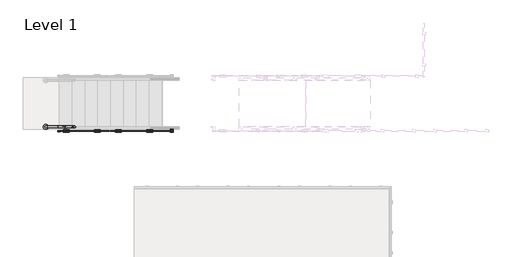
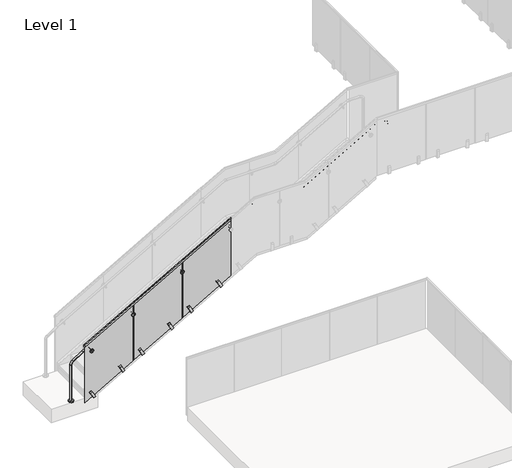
# One storey, part 8 of 17: 1 railing.
"""IFC4 building model written with IfcOpenShell, lengths in millimetres."""

from ifc_helpers import new_model, si_unit, point, frame, frame_2d, origin, origin_with_axes, place, context, project, spatial, polyline, circle_curve, ellipse_curve, trimmed, segment, composite_curve, outline, extrude, faceted_brep, element, save
from ifc_brep_helpers import plane_surface, cylinder_surface, revolved_surface, advanced_brep

model = new_model("IFC4")

# Units and contexts
model_context = context("Model", 3, world=origin())
ifc_project = project(units=[si_unit("LENGTHUNIT", "METRE", prefix="MILLI")], contexts=[model_context])

# Site, building, storey
site = spatial("IfcSite", under=ifc_project)
building = spatial("IfcBuilding", under=site)
storey = spatial("IfcBuildingStorey", under=building, Name="Level 1", Elevation=0.0)

# Railing
placement = place(None, origin())
element("IfcRailing", 1, ObjectType="VIVA-VISIO-Glass-Steel Fascia Mount-Stair_Lower", at=placement, inside=storey, context=model_context, shape_type="SolidModel", body=[
    extrude(outline(composite_curve([segment(trimmed(circle_curve(frame_2d((30754.4362561, -12583.4117549)), 50.8), [point((30754.4362561, -12634.2117549))], [point((30754.4362561, -12532.6117549))], False, "CARTESIAN"), True, "CONTINUOUS"), segment(trimmed(circle_curve(frame_2d((30754.4362561, -12583.4117549)), 50.8), [point((30754.4362561, -12532.6117549))], [point((30754.4362561, -12634.2117549))], False, "CARTESIAN"), True, "CONTINUOUS")], self_intersect=False)), frame((0.0, 0.0, 3048.0), z_axis=(0.0, 0.0, 1.0), x_axis=(1.0, 0.0, 0.0)), (0.0, 0.0, 1.0), 19.05),
    extrude(outline(composite_curve([segment(trimmed(circle_curve(frame_2d((24036.1362561, -12583.4117549)), 50.8), [point((24036.1362561, -12532.6117549))], [point((24036.1362561, -12634.2117549))], False, "CARTESIAN"), True, "CONTINUOUS"), segment(trimmed(circle_curve(frame_2d((24036.1362561, -12583.4117549)), 50.8), [point((24036.1362561, -12634.2117549))], [point((24036.1362561, -12532.6117549))], False, "CARTESIAN"), True, "CONTINUOUS")], self_intersect=False)), origin_with_axes(), (0.0, 0.0, 1.0), 19.05),
    advanced_brep(
    [(24036.1362561, -12602.4617549, 19.05), (24036.1362561, -12564.3617549, 19.05), (24036.1362561, -12602.4617549, 815.8777111), (24036.1362561, -12564.3617549, 815.8777111), (24072.8957549, -12564.3617549, 884.5634629), (24072.8957549, -12602.4617549, 884.5634629), (24278.7417076, -12602.4617549, 1021.794098), (24278.7417076, -12564.3617549, 1021.794098), (24283.5759394, -12564.3617549, 1024.7818176), (24283.5759394, -12602.4617549, 1024.7818176), (27379.3377028, -12602.4617549, 2793.7885396), (27379.3377028, -12564.3617549, 2793.7885396), (27813.1113335, -12602.4617549, 3041.6591857), (27813.1113335, -12564.3617549, 3041.6591857), (27854.0676029, -12564.3617549, 3052.5357143), (27854.0676029, -12602.4617549, 3052.5357143), (28866.9049093, -12602.4617549, 3052.5357143), (28866.9049093, -12564.3617549, 3052.5357143), (28926.7640722, -12564.3617549, 3068.4321792), (28926.7640722, -12602.4617549, 3068.4321792), (30403.9113335, -12602.4617549, 3912.5163285), (30403.9113335, -12564.3617549, 3912.5163285), (30444.8676029, -12564.3617549, 3923.3928571), (30444.8676029, -12602.4617549, 3923.3928571), (30671.8862561, -12602.4617549, 3923.3928571), (30671.8862561, -12564.3617549, 3923.3928571), (30754.4362561, -12564.3617549, 3840.8428571), (30754.4362561, -12602.4617549, 3840.8428571), (30754.4362561, -12602.4617549, 3067.05), (30754.4362561, -12564.3617549, 3067.05)],
    [
        (0, 1, circle_curve(frame((24036.1362561, -12583.4117549, 19.05), z_axis=(0.0, 0.0, -1.0), x_axis=(0.0, 1.0, 0.0)), 19.05)),
        (1, 0, circle_curve(frame((24036.1362561, -12583.4117549, 19.05), z_axis=(0.0, 0.0, -1.0), x_axis=(0.0, 1.0, 0.0)), 19.05)),
        (0, 2),
        (2, 3, circle_curve(frame((24036.1362561, -12583.4117549, 815.8777111), z_axis=(0.0, 0.0, -1.0), x_axis=(0.0, 1.0, 0.0)), 19.05)),
        (3, 1),
        (3, 2, circle_curve(frame((24036.1362561, -12583.4117549, 815.8777111), z_axis=(0.0, 0.0, -1.0), x_axis=(0.0, 1.0, 0.0)), 19.05)),
        (4, 3, circle_curve(frame((24118.6862561, -12564.3617549, 815.8777111), z_axis=(0.0, -1.0, 0.0), x_axis=(-0.9999999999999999, 0.0, 0.0)), 82.55)),
        (2, 5, circle_curve(frame((24118.6862561, -12602.4617549, 815.8777111), z_axis=(0.0, 1.0, 0.0), x_axis=(-0.9999999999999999, 0.0, 0.0)), 82.55)),
        (5, 4, circle_curve(frame((24072.8957549, -12583.4117549, 884.5634629), z_axis=(-0.832050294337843, 0.0, -0.5547001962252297), x_axis=(0.0, 0.9999999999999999, 0.0)), 19.05)),
        (4, 5, circle_curve(frame((24072.8957549, -12583.4117549, 884.5634629), z_axis=(-0.8320502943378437, 0.0, -0.5547001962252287), x_axis=(0.0, 0.9999999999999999, 0.0)), 19.05)),
        (5, 6),
        (6, 7, circle_curve(frame((24278.7417076, -12583.4117549, 1021.794098), z_axis=(-0.8320502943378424, 0.0, -0.5547001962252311), x_axis=(0.0, 1.0, 0.0)), 19.05)),
        (7, 4),
        (7, 6, circle_curve(frame((24278.7417076, -12583.4117549, 1021.794098), z_axis=(-0.8320502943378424, 0.0, -0.5547001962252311), x_axis=(0.0, 1.0, 0.0)), 19.05)),
        (8, 9, circle_curve(frame((24283.5759394, -12583.4117549, 1024.7818176), z_axis=(0.8682431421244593, 0.0, 0.4961389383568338), x_axis=(0.0, 1.0, 0.0)), 19.05)),
        (9, 10),
        (10, 11, circle_curve(frame((27379.3377028, -12583.4117549, 2793.7885396), z_axis=(-0.8682431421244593, 0.0, -0.4961389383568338), x_axis=(0.0, 1.0, 0.0)), 19.05)),
        (11, 8),
        (9, 8, circle_curve(frame((24283.5759394, -12583.4117549, 1024.7818176), z_axis=(0.8682431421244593, 0.0, 0.4961389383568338), x_axis=(0.0, 1.0, 0.0)), 19.05)),
        (11, 10, circle_curve(frame((27379.3377028, -12583.4117549, 2793.7885396), z_axis=(-0.8682431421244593, 0.0, -0.4961389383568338), x_axis=(0.0, 1.0, 0.0)), 19.05)),
        (8, 7, circle_curve(frame((24324.5322088, -12564.3617549, 953.1083462), z_axis=(0.0, -1.0, 0.0), x_axis=(-0.5547001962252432, 0.0, 0.8320502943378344)), 82.55)),
        (6, 9, circle_curve(frame((24324.5322088, -12602.4617549, 953.1083462), z_axis=(0.0, 1.0, 0.0), x_axis=(-0.5547001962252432, 0.0, 0.8320502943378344)), 82.55)),
        (10, 12),
        (12, 13, circle_curve(frame((27813.1113335, -12583.4117549, 3041.6591857), z_axis=(-0.8682431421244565, 0.0, -0.4961389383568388), x_axis=(0.0, 1.0, 0.0)), 19.05)),
        (13, 11),
        (13, 12, circle_curve(frame((27813.1113335, -12583.4117549, 3041.6591857), z_axis=(-0.8682431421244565, 0.0, -0.4961389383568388), x_axis=(0.0, 1.0, 0.0)), 19.05)),
        (14, 13, circle_curve(frame((27854.0676029, -12564.3617549, 2969.9857143), z_axis=(0.0, -1.0, 0.0), x_axis=(-0.49613893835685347, 0.0, 0.8682431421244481)), 82.55)),
        (12, 15, circle_curve(frame((27854.0676029, -12602.4617549, 2969.9857143), z_axis=(0.0, 1.0, 0.0), x_axis=(-0.49613893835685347, 0.0, 0.8682431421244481)), 82.55)),
        (15, 14, circle_curve(frame((27854.0676029, -12583.4117549, 3052.5357143), z_axis=(-1.0, 0.0, 0.0), x_axis=(0.0, 1.0, 0.0)), 19.05)),
        (14, 15, circle_curve(frame((27854.0676029, -12583.4117549, 3052.5357143), z_axis=(-1.0, 0.0, 0.0), x_axis=(0.0, 1.0, 0.0)), 19.05)),
        (15, 16),
        (16, 17, circle_curve(frame((28866.9049093, -12583.4117549, 3052.5357143), z_axis=(-1.0, 0.0, 0.0), x_axis=(0.0, 1.0, 0.0)), 19.05)),
        (17, 14),
        (17, 16, circle_curve(frame((28866.9049093, -12583.4117549, 3052.5357143), z_axis=(-1.0, 0.0, 0.0), x_axis=(0.0, 1.0, 0.0)), 19.05)),
        (18, 17, circle_curve(frame((28866.9049093, -12564.3617549, 3173.1857143), z_axis=(0.0, 1.0, 0.0), x_axis=(0.0, 0.0, -0.9999999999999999)), 120.65)),
        (16, 19, circle_curve(frame((28866.9049093, -12602.4617549, 3173.1857143), z_axis=(0.0, -1.0, 0.0), x_axis=(0.0, 0.0, -0.9999999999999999)), 120.65)),
        (19, 18, circle_curve(frame((28926.7640722, -12583.4117549, 3068.4321792), z_axis=(-0.8682431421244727, 0.0, -0.4961389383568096), x_axis=(0.0, 0.9999999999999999, 0.0)), 19.05)),
        (18, 19, circle_curve(frame((28926.7640722, -12583.4117549, 3068.4321792), z_axis=(-0.8682431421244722, 0.0, -0.4961389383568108), x_axis=(0.0, 0.9999999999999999, 0.0)), 19.05)),
        (19, 20),
        (20, 21, circle_curve(frame((30403.9113335, -12583.4117549, 3912.5163285), z_axis=(-0.8682431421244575, 0.0, -0.4961389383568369), x_axis=(0.0, 1.0, 0.0)), 19.05)),
        (21, 18),
        (21, 20, circle_curve(frame((30403.9113335, -12583.4117549, 3912.5163285), z_axis=(-0.8682431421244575, 0.0, -0.4961389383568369), x_axis=(0.0, 1.0, 0.0)), 19.05)),
        (22, 21, circle_curve(frame((30444.8676029, -12564.3617549, 3840.8428571), z_axis=(0.0, -1.0, 0.0), x_axis=(-0.49613893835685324, 0.0, 0.868243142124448)), 82.55)),
        (20, 23, circle_curve(frame((30444.8676029, -12602.4617549, 3840.8428571), z_axis=(0.0, 1.0, 0.0), x_axis=(-0.49613893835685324, 0.0, 0.868243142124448)), 82.55)),
        (23, 22, circle_curve(frame((30444.8676029, -12583.4117549, 3923.3928571), z_axis=(-0.9999999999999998, 0.0, 0.0), x_axis=(0.0, 0.9999999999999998, 0.0)), 19.05)),
        (22, 23, circle_curve(frame((30444.8676029, -12583.4117549, 3923.3928571), z_axis=(-0.9999999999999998, 0.0, 0.0), x_axis=(0.0, 0.9999999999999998, 0.0)), 19.05)),
        (23, 24),
        (24, 25, circle_curve(frame((30671.8862561, -12583.4117549, 3923.3928571), z_axis=(-1.0, 0.0, 0.0), x_axis=(0.0, 1.0, 0.0)), 19.05)),
        (25, 22),
        (25, 24, circle_curve(frame((30671.8862561, -12583.4117549, 3923.3928571), z_axis=(-1.0, 0.0, 0.0), x_axis=(0.0, 1.0, 0.0)), 19.05)),
        (26, 25, circle_curve(frame((30671.8862561, -12564.3617549, 3840.8428571), z_axis=(0.0, -1.0, 0.0), x_axis=(0.0, 0.0, 1.0)), 82.55)),
        (24, 27, circle_curve(frame((30671.8862561, -12602.4617549, 3840.8428571), z_axis=(0.0, 1.0, 0.0), x_axis=(0.0, 0.0, 1.0)), 82.55)),
        (27, 26, circle_curve(frame((30754.4362561, -12583.4117549, 3840.8428571), z_axis=(0.0, 0.0, 1.0), x_axis=(0.0, 1.0, 0.0)), 19.05)),
        (26, 27, circle_curve(frame((30754.4362561, -12583.4117549, 3840.8428571), z_axis=(0.0, 0.0, 1.0), x_axis=(0.0, 1.0, 0.0)), 19.05)),
        (28, 29, circle_curve(frame((30754.4362561, -12583.4117549, 3067.05), z_axis=(0.0, 0.0, -1.0), x_axis=(0.0, 1.0, 0.0)), 19.05)),
        (29, 28, circle_curve(frame((30754.4362561, -12583.4117549, 3067.05), z_axis=(0.0, 0.0, -1.0), x_axis=(0.0, 1.0, 0.0)), 19.05)),
        (27, 28),
        (29, 26),
    ],
    [
        plane_surface(frame((24017.0862561, -12621.5117549, 19.05), z_axis=(0.0, 0.0, -1.0), x_axis=(1.0, 0.0, 0.0))),
        cylinder_surface(frame((24036.1362561, -12583.4117549, 19.05), z_axis=(0.0, 0.0, -1.0), x_axis=(0.0, 1.0, 0.0)), 19.05),
        revolved_surface(trimmed(ellipse_curve(frame((24036.1362561, -12583.4117549, 815.8777111), z_axis=(0.0, 0.0, -0.9999999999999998), x_axis=(0.0, 0.9999999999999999, 0.0)), 19.05, 19.05), [point((24036.1362561, -12602.4617549, 815.8777111))], [point((24036.1362561, -12564.3617549, 815.8777111))], True, "CARTESIAN"), (24118.6862561, -12583.4117549, 815.8777111), (0.0, 0.9999999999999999, 0.0)),
        revolved_surface(trimmed(ellipse_curve(frame((24036.1362561, -12583.4117549, 815.8777111), z_axis=(0.0, 0.0, -0.9999999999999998), x_axis=(0.0, 0.9999999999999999, 0.0)), 19.05, 19.05), [point((24036.1362561, -12564.3617549, 815.8777111))], [point((24036.1362561, -12602.4617549, 815.8777111))], True, "CARTESIAN"), (24118.6862561, -12583.4117549, 815.8777111), (0.0, 0.9999999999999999, 0.0)),
        cylinder_surface(frame((24072.8957549, -12583.4117549, 884.5634629), z_axis=(-0.8320502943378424, 0.0, -0.5547001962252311), x_axis=(0.0, 1.0, 0.0)), 19.05),
        cylinder_surface(frame((24283.5759394, -12583.4117549, 1024.7818176), z_axis=(-0.8682431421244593, 0.0, -0.4961389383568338), x_axis=(0.0, 1.0, 0.0)), 19.05),
        revolved_surface(trimmed(ellipse_curve(frame((24278.7417076, -12583.4117549, 1021.794098), z_axis=(-0.8320502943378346, 0.0, -0.5547001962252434), x_axis=(0.0, 1.0000000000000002, 0.0)), 19.05, 19.05), [point((24278.7417076, -12602.4617549, 1021.794098))], [point((24278.7417076, -12564.3617549, 1021.794098))], True, "CARTESIAN"), (24324.5322088, -12583.4117549, 953.1083462), (0.0, 1.0000000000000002, 0.0)),
        revolved_surface(trimmed(ellipse_curve(frame((24278.7417076, -12583.4117549, 1021.794098), z_axis=(-0.8320502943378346, 0.0, -0.5547001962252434), x_axis=(0.0, 1.0000000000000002, 0.0)), 19.05, 19.05), [point((24278.7417076, -12564.3617549, 1021.794098))], [point((24278.7417076, -12602.4617549, 1021.794098))], True, "CARTESIAN"), (24324.5322088, -12583.4117549, 953.1083462), (0.0, 1.0000000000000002, 0.0)),
        cylinder_surface(frame((27379.3377028, -12583.4117549, 2793.7885396), z_axis=(-0.8682431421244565, 0.0, -0.4961389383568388), x_axis=(0.0, 1.0, 0.0)), 19.05),
        revolved_surface(trimmed(ellipse_curve(frame((27813.1113335, -12583.4117549, 3041.6591857), z_axis=(-0.8682431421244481, 0.0, -0.4961389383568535), x_axis=(0.0, 1.0, 0.0)), 19.05, 19.05), [point((27813.1113335, -12602.4617549, 3041.6591857))], [point((27813.1113335, -12564.3617549, 3041.6591857))], True, "CARTESIAN"), (27854.0676029, -12583.4117549, 2969.9857143), (0.0, 1.0, 0.0)),
        revolved_surface(trimmed(ellipse_curve(frame((27813.1113335, -12583.4117549, 3041.6591857), z_axis=(-0.8682431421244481, 0.0, -0.4961389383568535), x_axis=(0.0, 1.0, 0.0)), 19.05, 19.05), [point((27813.1113335, -12564.3617549, 3041.6591857))], [point((27813.1113335, -12602.4617549, 3041.6591857))], True, "CARTESIAN"), (27854.0676029, -12583.4117549, 2969.9857143), (0.0, 1.0, 0.0)),
        cylinder_surface(frame((27854.0676029, -12583.4117549, 3052.5357143), z_axis=(-1.0, 0.0, 0.0), x_axis=(0.0, 1.0, 0.0)), 19.05),
        revolved_surface(trimmed(ellipse_curve(frame((28866.9049093, -12583.4117549, 3052.5357143), z_axis=(-0.9999999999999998, 0.0, 0.0), x_axis=(0.0, 0.9999999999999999, 0.0)), 19.05, 19.05), [point((28866.9049093, -12602.4617549, 3052.5357143))], [point((28866.9049093, -12564.3617549, 3052.5357143))], True, "CARTESIAN"), (28866.9049093, -12583.4117549, 3173.1857143), (0.0, -0.9999999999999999, 0.0)),
        revolved_surface(trimmed(ellipse_curve(frame((28866.9049093, -12583.4117549, 3052.5357143), z_axis=(-0.9999999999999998, 0.0, 0.0), x_axis=(0.0, 0.9999999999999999, 0.0)), 19.05, 19.05), [point((28866.9049093, -12564.3617549, 3052.5357143))], [point((28866.9049093, -12602.4617549, 3052.5357143))], True, "CARTESIAN"), (28866.9049093, -12583.4117549, 3173.1857143), (0.0, -0.9999999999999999, 0.0)),
        cylinder_surface(frame((28926.7640722, -12583.4117549, 3068.4321792), z_axis=(-0.8682431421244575, 0.0, -0.4961389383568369), x_axis=(0.0, 1.0, 0.0)), 19.05),
        revolved_surface(trimmed(ellipse_curve(frame((30403.9113335, -12583.4117549, 3912.5163285), z_axis=(-0.8682431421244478, 0.0, -0.496138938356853), x_axis=(0.0, 0.9999999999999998, 0.0)), 19.05, 19.05), [point((30403.9113335, -12602.4617549, 3912.5163285))], [point((30403.9113335, -12564.3617549, 3912.5163285))], True, "CARTESIAN"), (30444.8676029, -12583.4117549, 3840.8428571), (0.0, 0.9999999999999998, 0.0)),
        revolved_surface(trimmed(ellipse_curve(frame((30403.9113335, -12583.4117549, 3912.5163285), z_axis=(-0.8682431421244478, 0.0, -0.496138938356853), x_axis=(0.0, 0.9999999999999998, 0.0)), 19.05, 19.05), [point((30403.9113335, -12564.3617549, 3912.5163285))], [point((30403.9113335, -12602.4617549, 3912.5163285))], True, "CARTESIAN"), (30444.8676029, -12583.4117549, 3840.8428571), (0.0, 0.9999999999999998, 0.0)),
        cylinder_surface(frame((30444.8676029, -12583.4117549, 3923.3928571), z_axis=(-1.0, 0.0, 0.0), x_axis=(0.0, 1.0, 0.0)), 19.05),
        revolved_surface(trimmed(ellipse_curve(frame((30671.8862561, -12583.4117549, 3923.3928571), z_axis=(-1.0, 0.0, 0.0), x_axis=(0.0, 1.0, 0.0)), 19.05, 19.05), [point((30671.8862561, -12602.4617549, 3923.3928571))], [point((30671.8862561, -12564.3617549, 3923.3928571))], True, "CARTESIAN"), (30671.8862561, -12583.4117549, 3840.8428571), (0.0, 1.0, 0.0)),
        revolved_surface(trimmed(ellipse_curve(frame((30671.8862561, -12583.4117549, 3923.3928571), z_axis=(-1.0, 0.0, 0.0), x_axis=(0.0, 1.0, 0.0)), 19.05, 19.05), [point((30671.8862561, -12564.3617549, 3923.3928571))], [point((30671.8862561, -12602.4617549, 3923.3928571))], True, "CARTESIAN"), (30671.8862561, -12583.4117549, 3840.8428571), (0.0, 1.0, 0.0)),
        plane_surface(frame((30773.4862561, -12621.5117549, 3067.05), z_axis=(0.0, 0.0, -1.0), x_axis=(-1.0, 0.0, 0.0))),
        cylinder_surface(frame((30754.4362561, -12583.4117549, 3840.8428571), z_axis=(0.0, 0.0, 1.0), x_axis=(0.0, 1.0, 0.0)), 19.05),
    ],
    [
        (0, [[1, 2]]),
        (1, [[-1, 3, 4, 5]]),
        (1, [[-2, -5, 6, -3]]),
        (2, [[7, -4, 8, 9]]),
        (3, [[-8, -6, -7, 10]]),
        (4, [[-9, 11, 12, 13]]),
        (4, [[-10, -13, 14, -11]]),
        (5, [[15, 16, 17, 18]]),
        (5, [[19, -18, 20, -16]]),
        (6, [[21, -12, 22, -15]]),
        (7, [[-22, -14, -21, -19]]),
        (8, [[-17, 23, 24, 25]]),
        (8, [[-20, -25, 26, -23]]),
        (9, [[27, -24, 28, 29]]),
        (10, [[-28, -26, -27, 30]]),
        (11, [[-29, 31, 32, 33]]),
        (11, [[-30, -33, 34, -31]]),
        (12, [[35, -32, 36, 37]]),
        (13, [[-36, -34, -35, 38]]),
        (14, [[-37, 39, 40, 41]]),
        (14, [[-38, -41, 42, -39]]),
        (15, [[43, -40, 44, 45]]),
        (16, [[-44, -42, -43, 46]]),
        (17, [[-45, 47, 48, 49]]),
        (17, [[-46, -49, 50, -47]]),
        (18, [[51, -48, 52, 53]]),
        (19, [[-52, -50, -51, 54]]),
        (20, [[55, 56]]),
        (21, [[-53, 57, -56, 58]]),
        (21, [[-54, -58, -55, -57]]),
    ],
),
    faceted_brep([(24271.0862561, -12676.8956611, 1217.3857143), (24271.0862561, -12655.1667549, 1217.3857143), (24271.0862561, -12655.1667549, 1173.5039971), (24271.0862561, -12659.681208, 1173.5039971), (24271.0862561, -12659.681208, 1212.9975426), (24271.0862561, -12672.381208, 1212.9975426), (24271.0862561, -12672.381208, 1173.5039971), (24271.0862561, -12676.8956611, 1173.5039971), (27369.8862561, -12676.8956611, 2988.1285714), (27369.8862561, -12676.8956611, 2944.2468543), (27369.8862561, -12672.381208, 2944.2468543), (27369.8862561, -12672.381208, 2983.7403997), (27369.8862561, -12659.681208, 2983.7403997), (27369.8862561, -12659.681208, 2944.2468543), (27369.8862561, -12655.1667549, 2944.2468543), (27369.8862561, -12655.1667549, 2988.1285714)], [[[0, 1, 2, 3, 4, 5, 6, 7]], [[8, 9, 10, 11, 12, 13, 14, 15]], [[1, 0, 8, 15]], [[2, 1, 15, 14]], [[3, 2, 14, 13]], [[4, 3, 13, 12]], [[5, 4, 12, 11]], [[6, 5, 11, 10]], [[7, 6, 10, 9]], [[0, 7, 9, 8]]]),
    extrude(outline(polyline([(0.0, 12.7), (50.8, 12.7), (50.8, 0.0), (0.0, 0.0), (0.0, 12.7)])), frame((27136.9894064, -12640.5617549, 1528.4517196), z_axis=(-0.4961389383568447, 0.0, 0.868243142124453), x_axis=(0.868243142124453, 0.0, 0.4961389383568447)), (0.0, 0.0, 1.0), 135.5680003),
    extrude(outline(polyline([(0.0, 12.7), (50.7999999, 12.7), (50.7999999, 0.0), (0.0, 0.0), (0.0, 12.7)])), frame((27138.2329955, -12672.3117549, 1526.2754387), z_axis=(-0.496138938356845, 0.0, 0.8682431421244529), x_axis=(0.8682431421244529, 0.0, 0.496138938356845)), (0.0, 0.0, 1.0), 36.5125),
    extrude(outline(polyline([(0.0, 0.0), (0.0, 19.05), (166.6875, 19.05), (166.6875, 11.1125), (139.7, 0.0), (0.0, 0.0)])), frame((27138.2329955, -12640.5617549, 1526.2754387), z_axis=(0.868243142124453, 0.0, 0.49613893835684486), x_axis=(-0.49613893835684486, 0.0, 0.868243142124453)), (0.0, 0.0, 1.0), 50.8),
    extrude(outline(polyline([(0.0, 50.8), (139.7, 50.8), (166.6875, 39.6875), (166.6875, 31.75), (0.0, 31.75), (0.0, 50.8)])), frame((27138.2329955, -12640.5617549, 1526.2754387), z_axis=(0.868243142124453, 0.0, 0.49613893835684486), x_axis=(-0.49613893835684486, 0.0, 0.868243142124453)), (0.0, 0.0, 1.0), 50.8),
    extrude(outline(polyline([(2981.5065494, 27361.802636), (2400.9351209, 26345.802636), (1115.5486476, 26345.802636), (1696.1200762, 27361.802636), (2981.5065494, 27361.802636)])), frame((0.0, -12672.3117549, 0.0), z_axis=(0.0, 1.0, 0.0), x_axis=(0.0, 0.0, 1.0)), (0.0, 0.0, 1.0), 12.7),
    extrude(outline(polyline([(0.0, 12.7), (50.8, 12.7), (50.8, 0.0), (0.0, 0.0), (0.0, 12.7)])), frame((26517.2294064, -12640.5617549, 1174.3031482), z_axis=(-0.4961389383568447, 0.0, 0.868243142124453), x_axis=(0.868243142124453, 0.0, 0.4961389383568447)), (0.0, 0.0, 1.0), 135.5680003),
    extrude(outline(polyline([(0.0, 12.7), (50.8, 12.7), (50.8, 0.0), (0.0, 0.0), (0.0, 12.7)])), frame((26518.4729955, -12672.3117549, 1172.1268672), z_axis=(-0.496138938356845, 0.0, 0.8682431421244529), x_axis=(0.8682431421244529, 0.0, 0.496138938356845)), (0.0, 0.0, 1.0), 36.5125),
    extrude(outline(polyline([(0.0, 0.0), (0.0, 19.05), (166.6875, 19.05), (166.6875, 11.1125), (139.7, 0.0), (0.0, 0.0)])), frame((26518.4729955, -12640.5617549, 1172.1268672), z_axis=(0.868243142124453, 0.0, 0.49613893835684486), x_axis=(-0.49613893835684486, 0.0, 0.868243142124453)), (0.0, 0.0, 1.0), 50.8),
    extrude(outline(polyline([(0.0, 50.8), (139.7, 50.8), (166.6875, 39.6875), (166.6875, 31.75), (0.0, 31.75), (0.0, 50.8)])), frame((26518.4729955, -12640.5617549, 1172.1268672), z_axis=(0.868243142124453, 0.0, 0.49613893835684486), x_axis=(-0.49613893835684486, 0.0, 0.868243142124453)), (0.0, 0.0, 1.0), 50.8),
    extrude(outline(composite_curve([segment(trimmed(circle_curve(frame_2d((0.0, -7.0)), 7.0), [point((0.0, -14.0))], [point((0.0, 0.0))], False, "CARTESIAN"), True, "CONTINUOUS"), segment(trimmed(circle_curve(frame_2d((0.0, -7.0)), 7.0), [point((0.0, 0.0))], [point((0.0, -14.0))], False, "CARTESIAN"), True, "CONTINUOUS")], self_intersect=False)), frame((26349.7491159, -12590.7418939, 2118.4424369), z_axis=(-0.5018548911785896, 0.0, 0.8649518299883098), x_axis=(-0.8649518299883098, 0.0, -0.5018548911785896)), (0.0, 0.0, 1.0), 52.8378352),
    extrude(outline(composite_curve([segment(trimmed(circle_curve(frame_2d((18.6575252, 0.3952033)), 19.05), [point((5.2466064, 13.9247915))], [point((5.2466064, -13.134385))], True, "CARTESIAN"), True, "CONTINUOUS"), segment(polyline([(5.2466064, -13.134385), (4.2292194, -14.1607746)]), True, "CONTINUOUS"), segment(trimmed(circle_curve(frame_2d((3.1638975, -13.1047967)), 1.5), [point((4.2292194, -14.1607746))], [point((2.0329757, -14.0901982))], False, "CARTESIAN"), True, "CONTINUOUS"), segment(trimmed(circle_curve(frame_2d((18.6575252, 0.3952033)), 22.05), [point((2.0329757, -14.0901982))], [point((2.0329757, 14.8806047))], False, "CARTESIAN"), True, "CONTINUOUS"), segment(trimmed(circle_curve(frame_2d((3.1638975, 13.8952033)), 1.5), [point((2.0329757, 14.8806047))], [point((4.2292194, 14.9511811))], False, "CARTESIAN"), True, "CONTINUOUS"), segment(polyline([(4.2292194, 14.9511811), (5.2466064, 13.9247915)]), True, "CONTINUOUS")], self_intersect=False)), frame((26285.2813338, -12582.0146616, 2146.1836197), z_axis=(0.8664916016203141, 0.0, 0.49919165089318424), x_axis=(-0.49919165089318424, 0.0, 0.8664916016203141)), (0.0, 0.0, 1.0), 74.5229187),
    extrude(outline(composite_curve([segment(trimmed(circle_curve(frame_2d((2140.5789524, 26336.9529227)), 11.0132813), [point((2140.5789524, 26347.966204))], [point((2140.5789524, 26325.9396415))], False, "CARTESIAN"), True, "CONTINUOUS"), segment(trimmed(circle_curve(frame_2d((2140.5789524, 26336.9529227)), 11.0132813), [point((2140.5789524, 26325.9396415))], [point((2140.5789524, 26347.966204))], False, "CARTESIAN"), True, "CONTINUOUS")], self_intersect=False)), frame((0.0, -12649.9875361, 0.0), z_axis=(0.0, 1.0, 0.0), x_axis=(0.0, 0.0, 1.0)), (0.0, 0.0, 1.0), 79.2757812),
    advanced_brep(
    [(26336.9529227, -12681.9359736, 2140.5789524), (26336.9529227, -12681.9359736, 2176.6945774), (26336.9529227, -12681.9359736, 2104.4633274), (26336.9529227, -12649.9875361, 2104.4633274), (26336.9529227, -12649.9875361, 2176.6945774), (26336.9529227, -12649.9875361, 2140.5789524), (26336.9529227, -12651.9719111, 2102.4789524), (26336.9529227, -12651.9719111, 2178.6789524), (26336.9529227, -12659.6117549, 2102.4789524), (26336.9529227, -12659.6117549, 2178.6789524), (26336.9529227, -12659.6117549, 2127.8789524), (26336.9529227, -12659.6117549, 2153.2789524), (26336.9529227, -12672.3117549, 2127.8789524), (26336.9529227, -12672.3117549, 2153.2789524), (26336.9529227, -12672.3117549, 2102.4789524), (26336.9529227, -12672.3117549, 2178.6789524), (26336.9529227, -12679.9515986, 2102.4789524), (26336.9529227, -12679.9515986, 2178.6789524)],
    [
        (0, 1),
        (1, 2, circle_curve(frame((26336.9529227, -12681.9359736, 2140.5789524), z_axis=(0.0, -1.0, 0.0), x_axis=(0.0, 0.0, 1.0)), 36.115625)),
        (2, 0),
        (2, 1, circle_curve(frame((26336.9529227, -12681.9359736, 2140.5789524), z_axis=(0.0, -1.0, 0.0), x_axis=(0.0, 0.0, 1.0)), 36.115625)),
        (3, 4, circle_curve(frame((26336.9529227, -12649.9875361, 2140.5789524), z_axis=(0.0, 1.0, 0.0), x_axis=(0.0, 0.0, 1.0)), 36.115625)),
        (4, 5),
        (5, 3),
        (4, 3, circle_curve(frame((26336.9529227, -12649.9875361, 2140.5789524), z_axis=(0.0, 1.0, 0.0), x_axis=(0.0, 0.0, 1.0)), 36.115625)),
        (6, 7, circle_curve(frame((26336.9529227, -12651.9719111, 2140.5789524), z_axis=(0.0, 1.0, 0.0), x_axis=(0.0, 0.0, 1.0)), 38.1)),
        (7, 4),
        (3, 6),
        (7, 6, circle_curve(frame((26336.9529227, -12651.9719111, 2140.5789524), z_axis=(0.0, 1.0, 0.0), x_axis=(0.0, 0.0, 1.0)), 38.1)),
        (8, 9, circle_curve(frame((26336.9529227, -12659.6117549, 2140.5789524), z_axis=(0.0, 1.0, 0.0), x_axis=(0.0, 0.0, 1.0)), 38.1)),
        (9, 7),
        (6, 8),
        (9, 8, circle_curve(frame((26336.9529227, -12659.6117549, 2140.5789524), z_axis=(0.0, 1.0, 0.0), x_axis=(0.0, 0.0, 1.0)), 38.1)),
        (10, 11, circle_curve(frame((26336.9529227, -12659.6117549, 2140.5789524), z_axis=(0.0, 1.0, 0.0), x_axis=(0.0, 0.0, 1.0)), 12.7)),
        (11, 9),
        (8, 10),
        (11, 10, circle_curve(frame((26336.9529227, -12659.6117549, 2140.5789524), z_axis=(0.0, 1.0, 0.0), x_axis=(0.0, 0.0, 1.0)), 12.7)),
        (12, 13, circle_curve(frame((26336.9529227, -12672.3117549, 2140.5789524), z_axis=(0.0, 1.0, 0.0), x_axis=(0.0, 0.0, 1.0)), 12.7)),
        (13, 11),
        (10, 12),
        (13, 12, circle_curve(frame((26336.9529227, -12672.3117549, 2140.5789524), z_axis=(0.0, 1.0, 0.0), x_axis=(0.0, 0.0, 1.0)), 12.7)),
        (14, 15, circle_curve(frame((26336.9529227, -12672.3117549, 2140.5789524), z_axis=(0.0, 1.0, 0.0), x_axis=(0.0, 0.0, 1.0)), 38.1)),
        (15, 13),
        (12, 14),
        (15, 14, circle_curve(frame((26336.9529227, -12672.3117549, 2140.5789524), z_axis=(0.0, 1.0, 0.0), x_axis=(0.0, 0.0, 1.0)), 38.1)),
        (16, 17, circle_curve(frame((26336.9529227, -12679.9515986, 2140.5789524), z_axis=(0.0, 1.0, 0.0), x_axis=(0.0, 0.0, 1.0)), 38.1)),
        (17, 15),
        (14, 16),
        (17, 16, circle_curve(frame((26336.9529227, -12679.9515986, 2140.5789524), z_axis=(0.0, 1.0, 0.0), x_axis=(0.0, 0.0, 1.0)), 38.1)),
        (1, 17),
        (16, 2),
    ],
    [
        plane_surface(frame((26336.9529227, -12681.9359736, 2140.5789524), z_axis=(0.0, -1.0, 0.0), x_axis=(0.0, 0.0, 1.0))),
        plane_surface(frame((26336.9529227, -12649.9875361, 2140.5789524), z_axis=(0.0, 1.0, 0.0), x_axis=(0.0, 0.0, 1.0))),
        revolved_surface(polyline([(26336.9529227, -12649.9875361, 2176.6945774), (26336.9529227, -12651.9719111, 2178.6789524)]), (26336.9529227, -12718.0515986, 2140.5789524), (0.0, -1.0, 0.0)),
        cylinder_surface(frame((26336.9529227, -12718.0515986, 2140.5789524), z_axis=(0.0, -1.0, 0.0), x_axis=(0.0, 0.0, 1.0)), 38.1),
        plane_surface(frame((26336.9529227, -12659.6117549, 2140.5789524), z_axis=(0.0, -1.0, 0.0), x_axis=(0.0, 0.0, 1.0))),
        cylinder_surface(frame((26336.9529227, -12718.0515986, 2140.5789524), z_axis=(0.0, -1.0, 0.0), x_axis=(0.0, 0.0, 1.0)), 12.7),
        plane_surface(frame((26336.9529227, -12672.3117549, 2140.5789524), z_axis=(0.0, 1.0, 0.0), x_axis=(0.0, 0.0, 1.0))),
        revolved_surface(polyline([(26336.9529227, -12679.9515986, 2178.6789524), (26336.9529227, -12681.9359736, 2176.6945774)]), (26336.9529227, -12718.0515986, 2140.5789524), (0.0, -1.0, 0.0)),
    ],
    [
        (0, [[1, 2, 3]]),
        (0, [[-3, 4, -1]]),
        (1, [[5, 6, 7]]),
        (1, [[8, -7, -6]]),
        (2, [[9, 10, -5, 11]]),
        (2, [[12, -11, -8, -10]]),
        (3, [[13, 14, -9, 15]]),
        (3, [[16, -15, -12, -14]]),
        (4, [[17, 18, -13, 19]]),
        (4, [[20, -19, -16, -18]]),
        (5, [[21, 22, -17, 23]]),
        (5, [[24, -23, -20, -22]]),
        (6, [[25, 26, -21, 27]]),
        (6, [[28, -27, -24, -26]]),
        (3, [[29, 30, -25, 31]]),
        (3, [[32, -31, -28, -30]]),
        (7, [[-2, 33, -29, 34]]),
        (7, [[-4, -34, -32, -33]]),
    ],
),
    extrude(outline(polyline([(0.0, 12.7), (50.8, 12.7), (50.8, 0.0), (0.0, 0.0), (0.0, 12.7)])), frame((26104.056073, -12640.5617549, 938.2041006), z_axis=(-0.4961389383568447, 0.0, 0.868243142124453), x_axis=(0.868243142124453, 0.0, 0.4961389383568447)), (0.0, 0.0, 1.0), 135.5680003),
    extrude(outline(polyline([(0.0, 12.7), (50.8, 12.7), (50.8, 0.0), (0.0, 0.0), (0.0, 12.7)])), frame((26105.2996622, -12672.3117549, 936.0278196), z_axis=(-0.496138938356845, 0.0, 0.8682431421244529), x_axis=(0.8682431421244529, 0.0, 0.496138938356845)), (0.0, 0.0, 1.0), 36.5125),
    extrude(outline(polyline([(0.0, 0.0), (0.0, 19.05), (166.6875, 19.05), (166.6875, 11.1125), (139.7, 0.0), (0.0, 0.0)])), frame((26105.2996622, -12640.5617549, 936.0278196), z_axis=(0.868243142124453, 0.0, 0.49613893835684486), x_axis=(-0.49613893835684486, 0.0, 0.868243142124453)), (0.0, 0.0, 1.0), 50.8),
    extrude(outline(polyline([(0.0, 50.8), (139.7, 50.8), (166.6875, 39.6875), (166.6875, 31.75), (0.0, 31.75), (0.0, 50.8)])), frame((26105.2996622, -12640.5617549, 936.0278196), z_axis=(0.868243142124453, 0.0, 0.49613893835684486), x_axis=(-0.49613893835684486, 0.0, 0.868243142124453)), (0.0, 0.0, 1.0), 50.8),
    extrude(outline(polyline([(2391.2589304, 26328.8693027), (1810.6875018, 25312.8693027), (525.3010286, 25312.8693027), (1105.8724571, 26328.8693027), (2391.2589304, 26328.8693027)])), frame((0.0, -12672.3117549, 0.0), z_axis=(0.0, 1.0, 0.0), x_axis=(0.0, 0.0, 1.0)), (0.0, 0.0, 1.0), 12.7),
    extrude(outline(polyline([(0.0, 12.7), (50.7999999, 12.7), (50.7999999, 0.0), (0.0, 0.0), (0.0, 12.7)])), frame((25484.296073, -12640.5617549, 584.0555292), z_axis=(-0.4961389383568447, 0.0, 0.868243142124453), x_axis=(0.868243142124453, 0.0, 0.4961389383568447)), (0.0, 0.0, 1.0), 135.5680003),
    extrude(outline(polyline([(0.0, 12.7), (50.8, 12.7), (50.8, 0.0), (0.0, 0.0), (0.0, 12.7)])), frame((25485.5396622, -12672.3117549, 581.8792482), z_axis=(-0.496138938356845, 0.0, 0.8682431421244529), x_axis=(0.8682431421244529, 0.0, 0.496138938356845)), (0.0, 0.0, 1.0), 36.5125),
    extrude(outline(polyline([(0.0, 0.0), (0.0, 19.05), (166.6875, 19.05), (166.6875, 11.1125), (139.7, 0.0), (0.0, 0.0)])), frame((25485.5396622, -12640.5617549, 581.8792482), z_axis=(0.868243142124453, 0.0, 0.49613893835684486), x_axis=(-0.49613893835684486, 0.0, 0.868243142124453)), (0.0, 0.0, 1.0), 50.8),
    extrude(outline(polyline([(0.0, 50.8), (139.7, 50.8), (166.6875, 39.6875), (166.6875, 31.75), (0.0, 31.75), (0.0, 50.8)])), frame((25485.5396622, -12640.5617549, 581.8792482), z_axis=(0.868243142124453, 0.0, 0.49613893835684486), x_axis=(-0.49613893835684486, 0.0, 0.868243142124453)), (0.0, 0.0, 1.0), 50.8),
    extrude(outline(composite_curve([segment(trimmed(circle_curve(frame_2d((0.0, -7.0)), 7.0), [point((0.0, -14.0))], [point((0.0, 0.0))], False, "CARTESIAN"), True, "CONTINUOUS"), segment(trimmed(circle_curve(frame_2d((0.0, -7.0)), 7.0), [point((0.0, 0.0))], [point((0.0, -14.0))], False, "CARTESIAN"), True, "CONTINUOUS")], self_intersect=False)), frame((25316.8157825, -12590.7418939, 1528.1948178), z_axis=(-0.5018548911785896, 0.0, 0.8649518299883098), x_axis=(-0.8649518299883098, 0.0, -0.5018548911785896)), (0.0, 0.0, 1.0), 52.8378352),
    extrude(outline(composite_curve([segment(trimmed(circle_curve(frame_2d((18.6575251, 0.3952033)), 19.05), [point((5.2466063, 13.9247915))], [point((5.2466063, -13.134385))], True, "CARTESIAN"), True, "CONTINUOUS"), segment(polyline([(5.2466063, -13.134385), (4.2292193, -14.1607746)]), True, "CONTINUOUS"), segment(trimmed(circle_curve(frame_2d((3.1638974, -13.1047967)), 1.5), [point((4.2292193, -14.1607746))], [point((2.0329756, -14.0901982))], False, "CARTESIAN"), True, "CONTINUOUS"), segment(trimmed(circle_curve(frame_2d((18.6575251, 0.3952033)), 22.05), [point((2.0329756, -14.0901982))], [point((2.0329756, 14.8806047))], False, "CARTESIAN"), True, "CONTINUOUS"), segment(trimmed(circle_curve(frame_2d((3.1638974, 13.8952033)), 1.5), [point((2.0329756, 14.8806047))], [point((4.2292193, 14.9511811))], False, "CARTESIAN"), True, "CONTINUOUS"), segment(polyline([(4.2292193, 14.9511811), (5.2466063, 13.9247915)]), True, "CONTINUOUS")], self_intersect=False)), frame((25252.3480005, -12582.0146616, 1555.9360007), z_axis=(0.8664916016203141, 0.0, 0.49919165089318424), x_axis=(-0.49919165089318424, 0.0, 0.8664916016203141)), (0.0, 0.0, 1.0), 74.5229187),
    extrude(outline(composite_curve([segment(trimmed(circle_curve(frame_2d((1550.3313333, 25304.0195894)), 11.0132813), [point((1550.3313333, 25315.0328707))], [point((1550.3313333, 25293.0063082))], False, "CARTESIAN"), True, "CONTINUOUS"), segment(trimmed(circle_curve(frame_2d((1550.3313333, 25304.0195894)), 11.0132813), [point((1550.3313333, 25293.0063082))], [point((1550.3313333, 25315.0328707))], False, "CARTESIAN"), True, "CONTINUOUS")], self_intersect=False)), frame((0.0, -12649.9875361, 0.0), z_axis=(0.0, 1.0, 0.0), x_axis=(0.0, 0.0, 1.0)), (0.0, 0.0, 1.0), 79.2757812),
    advanced_brep(
    [(25304.0195894, -12681.9359736, 1550.3313333), (25304.0195894, -12681.9359736, 1586.4469583), (25304.0195894, -12681.9359736, 1514.2157083), (25304.0195894, -12649.9875361, 1514.2157083), (25304.0195894, -12649.9875361, 1586.4469583), (25304.0195894, -12649.9875361, 1550.3313333), (25304.0195894, -12651.9719111, 1512.2313333), (25304.0195894, -12651.9719111, 1588.4313333), (25304.0195894, -12659.6117549, 1512.2313333), (25304.0195894, -12659.6117549, 1588.4313333), (25304.0195894, -12659.6117549, 1537.6313333), (25304.0195894, -12659.6117549, 1563.0313333), (25304.0195894, -12672.3117549, 1537.6313333), (25304.0195894, -12672.3117549, 1563.0313333), (25304.0195894, -12672.3117549, 1512.2313333), (25304.0195894, -12672.3117549, 1588.4313333), (25304.0195894, -12679.9515986, 1512.2313333), (25304.0195894, -12679.9515986, 1588.4313333)],
    [
        (0, 1),
        (1, 2, circle_curve(frame((25304.0195894, -12681.9359736, 1550.3313333), z_axis=(0.0, -1.0, 0.0), x_axis=(0.0, 0.0, 1.0)), 36.115625)),
        (2, 0),
        (2, 1, circle_curve(frame((25304.0195894, -12681.9359736, 1550.3313333), z_axis=(0.0, -1.0, 0.0), x_axis=(0.0, 0.0, 1.0)), 36.115625)),
        (3, 4, circle_curve(frame((25304.0195894, -12649.9875361, 1550.3313333), z_axis=(0.0, 1.0, 0.0), x_axis=(0.0, 0.0, 1.0)), 36.115625)),
        (4, 5),
        (5, 3),
        (4, 3, circle_curve(frame((25304.0195894, -12649.9875361, 1550.3313333), z_axis=(0.0, 1.0, 0.0), x_axis=(0.0, 0.0, 1.0)), 36.115625)),
        (6, 7, circle_curve(frame((25304.0195894, -12651.9719111, 1550.3313333), z_axis=(0.0, 1.0, 0.0), x_axis=(0.0, 0.0, 1.0)), 38.1)),
        (7, 4),
        (3, 6),
        (7, 6, circle_curve(frame((25304.0195894, -12651.9719111, 1550.3313333), z_axis=(0.0, 1.0, 0.0), x_axis=(0.0, 0.0, 1.0)), 38.1)),
        (8, 9, circle_curve(frame((25304.0195894, -12659.6117549, 1550.3313333), z_axis=(0.0, 1.0, 0.0), x_axis=(0.0, 0.0, 1.0)), 38.1)),
        (9, 7),
        (6, 8),
        (9, 8, circle_curve(frame((25304.0195894, -12659.6117549, 1550.3313333), z_axis=(0.0, 1.0, 0.0), x_axis=(0.0, 0.0, 1.0)), 38.1)),
        (10, 11, circle_curve(frame((25304.0195894, -12659.6117549, 1550.3313333), z_axis=(0.0, 1.0, 0.0), x_axis=(0.0, 0.0, 1.0)), 12.7)),
        (11, 9),
        (8, 10),
        (11, 10, circle_curve(frame((25304.0195894, -12659.6117549, 1550.3313333), z_axis=(0.0, 1.0, 0.0), x_axis=(0.0, 0.0, 1.0)), 12.7)),
        (12, 13, circle_curve(frame((25304.0195894, -12672.3117549, 1550.3313333), z_axis=(0.0, 1.0, 0.0), x_axis=(0.0, 0.0, 1.0)), 12.7)),
        (13, 11),
        (10, 12),
        (13, 12, circle_curve(frame((25304.0195894, -12672.3117549, 1550.3313333), z_axis=(0.0, 1.0, 0.0), x_axis=(0.0, 0.0, 1.0)), 12.7)),
        (14, 15, circle_curve(frame((25304.0195894, -12672.3117549, 1550.3313333), z_axis=(0.0, 1.0, 0.0), x_axis=(0.0, 0.0, 1.0)), 38.1)),
        (15, 13),
        (12, 14),
        (15, 14, circle_curve(frame((25304.0195894, -12672.3117549, 1550.3313333), z_axis=(0.0, 1.0, 0.0), x_axis=(0.0, 0.0, 1.0)), 38.1)),
        (16, 17, circle_curve(frame((25304.0195894, -12679.9515986, 1550.3313333), z_axis=(0.0, 1.0, 0.0), x_axis=(0.0, 0.0, 1.0)), 38.1)),
        (17, 15),
        (14, 16),
        (17, 16, circle_curve(frame((25304.0195894, -12679.9515986, 1550.3313333), z_axis=(0.0, 1.0, 0.0), x_axis=(0.0, 0.0, 1.0)), 38.1)),
        (1, 17),
        (16, 2),
    ],
    [
        plane_surface(frame((25304.0195894, -12681.9359736, 1550.3313333), z_axis=(0.0, -1.0, 0.0), x_axis=(0.0, 0.0, 1.0))),
        plane_surface(frame((25304.0195894, -12649.9875361, 1550.3313333), z_axis=(0.0, 1.0, 0.0), x_axis=(0.0, 0.0, 1.0))),
        revolved_surface(polyline([(25304.0195894, -12649.9875361, 1586.4469583), (25304.0195894, -12651.9719111, 1588.4313333)]), (25304.0195894, -12718.0515986, 1550.3313333), (0.0, -1.0, 0.0)),
        cylinder_surface(frame((25304.0195894, -12718.0515986, 1550.3313333), z_axis=(0.0, -1.0, 0.0), x_axis=(0.0, 0.0, 1.0)), 38.1),
        plane_surface(frame((25304.0195894, -12659.6117549, 1550.3313333), z_axis=(0.0, -1.0, 0.0), x_axis=(0.0, 0.0, 1.0))),
        cylinder_surface(frame((25304.0195894, -12718.0515986, 1550.3313333), z_axis=(0.0, -1.0, 0.0), x_axis=(0.0, 0.0, 1.0)), 12.7),
        plane_surface(frame((25304.0195894, -12672.3117549, 1550.3313333), z_axis=(0.0, 1.0, 0.0), x_axis=(0.0, 0.0, 1.0))),
        revolved_surface(polyline([(25304.0195894, -12679.9515986, 1588.4313333), (25304.0195894, -12681.9359736, 1586.4469583)]), (25304.0195894, -12718.0515986, 1550.3313333), (0.0, -1.0, 0.0)),
    ],
    [
        (0, [[1, 2, 3]]),
        (0, [[-3, 4, -1]]),
        (1, [[5, 6, 7]]),
        (1, [[8, -7, -6]]),
        (2, [[9, 10, -5, 11]]),
        (2, [[12, -11, -8, -10]]),
        (3, [[13, 14, -9, 15]]),
        (3, [[16, -15, -12, -14]]),
        (4, [[17, 18, -13, 19]]),
        (4, [[20, -19, -16, -18]]),
        (5, [[21, 22, -17, 23]]),
        (5, [[24, -23, -20, -22]]),
        (6, [[25, 26, -21, 27]]),
        (6, [[28, -27, -24, -26]]),
        (3, [[29, 30, -25, 31]]),
        (3, [[32, -31, -28, -30]]),
        (7, [[-2, 33, -29, 34]]),
        (7, [[-4, -34, -32, -33]]),
    ],
),
    extrude(outline(polyline([(0.0, 12.7), (50.8, 12.7), (50.8, 0.0), (0.0, 0.0), (0.0, 12.7)])), frame((25071.1227397, -12640.5617549, 347.9564815), z_axis=(-0.4961389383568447, 0.0, 0.868243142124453), x_axis=(0.868243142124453, 0.0, 0.4961389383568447)), (0.0, 0.0, 1.0), 135.5680003),
    extrude(outline(polyline([(0.0, 12.7), (50.8, 12.7), (50.8, 0.0), (0.0, 0.0), (0.0, 12.7)])), frame((25072.3663288, -12672.3117549, 345.7802006), z_axis=(-0.496138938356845, 0.0, 0.8682431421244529), x_axis=(0.8682431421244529, 0.0, 0.496138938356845)), (0.0, 0.0, 1.0), 36.5125),
    extrude(outline(polyline([(0.0, 0.0), (0.0, 19.05), (166.6875, 19.05), (166.6875, 11.1125), (139.7, 0.0), (0.0, 0.0)])), frame((25072.3663288, -12640.5617549, 345.7802006), z_axis=(0.868243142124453, 0.0, 0.49613893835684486), x_axis=(-0.49613893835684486, 0.0, 0.868243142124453)), (0.0, 0.0, 1.0), 50.8),
    extrude(outline(polyline([(0.0, 50.8), (139.7, 50.8), (166.6875, 39.6875), (166.6875, 31.75), (0.0, 31.75), (0.0, 50.8)])), frame((25072.3663288, -12640.5617549, 345.7802006), z_axis=(0.868243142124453, 0.0, 0.49613893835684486), x_axis=(-0.49613893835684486, 0.0, 0.868243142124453)), (0.0, 0.0, 1.0), 50.8),
    extrude(outline(polyline([(1801.0113113, 25295.9359693), (1220.4398828, 24279.9359693), (-64.9465905, 24279.9359693), (515.6248381, 25295.9359693), (1801.0113113, 25295.9359693)])), frame((0.0, -12672.3117549, 0.0), z_axis=(0.0, 1.0, 0.0), x_axis=(0.0, 0.0, 1.0)), (0.0, 0.0, 1.0), 12.7),
    extrude(outline(polyline([(0.0, 12.7), (50.8, 12.7), (50.8, 0.0), (0.0, 0.0), (0.0, 12.7)])), frame((24451.3627397, -12640.5617549, -6.1920899), z_axis=(-0.4961389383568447, 0.0, 0.868243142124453), x_axis=(0.868243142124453, 0.0, 0.4961389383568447)), (0.0, 0.0, 1.0), 135.5680003),
    extrude(outline(polyline([(0.0, 12.7), (50.7999999, 12.7), (50.7999999, 0.0), (0.0, 0.0), (0.0, 12.7)])), frame((24452.6063288, -12672.3117549, -8.3683708), z_axis=(-0.496138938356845, 0.0, 0.8682431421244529), x_axis=(0.8682431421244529, 0.0, 0.496138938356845)), (0.0, 0.0, 1.0), 36.5125),
    extrude(outline(polyline([(0.0, 0.0), (0.0, 19.05), (166.6875, 19.05), (166.6875, 11.1125), (139.7, 0.0), (0.0, 0.0)])), frame((24452.6063288, -12640.5617549, -8.3683708), z_axis=(0.868243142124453, 0.0, 0.49613893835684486), x_axis=(-0.49613893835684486, 0.0, 0.868243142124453)), (0.0, 0.0, 1.0), 50.8),
    extrude(outline(polyline([(0.0, 50.8), (139.7, 50.8), (166.6875, 39.6875), (166.6875, 31.75), (0.0, 31.75), (0.0, 50.8)])), frame((24452.6063288, -12640.5617549, -8.3683708), z_axis=(0.868243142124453, 0.0, 0.49613893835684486), x_axis=(-0.49613893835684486, 0.0, 0.868243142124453)), (0.0, 0.0, 1.0), 50.8),
    extrude(outline(composite_curve([segment(trimmed(circle_curve(frame_2d((0.0, -7.0)), 7.0), [point((0.0, -14.0))], [point((0.0, 0.0))], False, "CARTESIAN"), True, "CONTINUOUS"), segment(trimmed(circle_curve(frame_2d((0.0, -7.0)), 7.0), [point((0.0, 0.0))], [point((0.0, -14.0))], False, "CARTESIAN"), True, "CONTINUOUS")], self_intersect=False)), frame((24436.2824492, -12590.7418939, 1025.0329131), z_axis=(-0.5018548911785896, 0.0, 0.8649518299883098), x_axis=(-0.8649518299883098, 0.0, -0.5018548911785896)), (0.0, 0.0, 1.0), 52.8378352),
    extrude(outline(composite_curve([segment(trimmed(circle_curve(frame_2d((18.6575252, 0.3952033)), 19.05), [point((5.2466064, 13.9247915))], [point((5.2466064, -13.134385))], True, "CARTESIAN"), True, "CONTINUOUS"), segment(polyline([(5.2466064, -13.134385), (4.2292193, -14.1607746)]), True, "CONTINUOUS"), segment(trimmed(circle_curve(frame_2d((3.1638975, -13.1047967)), 1.5), [point((4.2292193, -14.1607746))], [point((2.0329757, -14.0901982))], False, "CARTESIAN"), True, "CONTINUOUS"), segment(trimmed(circle_curve(frame_2d((18.6575252, 0.3952033)), 22.05), [point((2.0329757, -14.0901982))], [point((2.0329757, 14.8806047))], False, "CARTESIAN"), True, "CONTINUOUS"), segment(trimmed(circle_curve(frame_2d((3.1638975, 13.8952033)), 1.5), [point((2.0329757, 14.8806047))], [point((4.2292193, 14.9511811))], False, "CARTESIAN"), True, "CONTINUOUS"), segment(polyline([(4.2292193, 14.9511811), (5.2466064, 13.9247915)]), True, "CONTINUOUS")], self_intersect=False)), frame((24371.8146672, -12582.0146616, 1052.7740959), z_axis=(0.8664916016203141, 0.0, 0.49919165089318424), x_axis=(-0.49919165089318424, 0.0, 0.8664916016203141)), (0.0, 0.0, 1.0), 74.5229187),
    extrude(outline(composite_curve([segment(trimmed(circle_curve(frame_2d((1047.1694286, 24423.4862561)), 11.0132813), [point((1047.1694286, 24434.4995373))], [point((1047.1694286, 24412.4729748))], False, "CARTESIAN"), True, "CONTINUOUS"), segment(trimmed(circle_curve(frame_2d((1047.1694286, 24423.4862561)), 11.0132813), [point((1047.1694286, 24412.4729748))], [point((1047.1694286, 24434.4995373))], False, "CARTESIAN"), True, "CONTINUOUS")], self_intersect=False)), frame((0.0, -12649.9875361, 0.0), z_axis=(0.0, 1.0, 0.0), x_axis=(0.0, 0.0, 1.0)), (0.0, 0.0, 1.0), 79.2757812),
    advanced_brep(
    [(24423.4862561, -12681.9359736, 1047.1694286), (24423.4862561, -12681.9359736, 1083.2850536), (24423.4862561, -12681.9359736, 1011.0538036), (24423.4862561, -12649.9875361, 1011.0538036), (24423.4862561, -12649.9875361, 1083.2850536), (24423.4862561, -12649.9875361, 1047.1694286), (24423.4862561, -12651.9719111, 1009.0694286), (24423.4862561, -12651.9719111, 1085.2694286), (24423.4862561, -12659.6117549, 1009.0694286), (24423.4862561, -12659.6117549, 1085.2694286), (24423.4862561, -12659.6117549, 1034.4694286), (24423.4862561, -12659.6117549, 1059.8694286), (24423.4862561, -12672.3117549, 1034.4694286), (24423.4862561, -12672.3117549, 1059.8694286), (24423.4862561, -12672.3117549, 1009.0694286), (24423.4862561, -12672.3117549, 1085.2694286), (24423.4862561, -12679.9515986, 1009.0694286), (24423.4862561, -12679.9515986, 1085.2694286)],
    [
        (0, 1),
        (1, 2, circle_curve(frame((24423.4862561, -12681.9359736, 1047.1694286), z_axis=(0.0, -1.0, 0.0), x_axis=(0.0, 0.0, 1.0)), 36.115625)),
        (2, 0),
        (2, 1, circle_curve(frame((24423.4862561, -12681.9359736, 1047.1694286), z_axis=(0.0, -1.0, 0.0), x_axis=(0.0, 0.0, 1.0)), 36.115625)),
        (3, 4, circle_curve(frame((24423.4862561, -12649.9875361, 1047.1694286), z_axis=(0.0, 1.0, 0.0), x_axis=(0.0, 0.0, 1.0)), 36.115625)),
        (4, 5),
        (5, 3),
        (4, 3, circle_curve(frame((24423.4862561, -12649.9875361, 1047.1694286), z_axis=(0.0, 1.0, 0.0), x_axis=(0.0, 0.0, 1.0)), 36.115625)),
        (6, 7, circle_curve(frame((24423.4862561, -12651.9719111, 1047.1694286), z_axis=(0.0, 1.0, 0.0), x_axis=(0.0, 0.0, 1.0)), 38.1)),
        (7, 4),
        (3, 6),
        (7, 6, circle_curve(frame((24423.4862561, -12651.9719111, 1047.1694286), z_axis=(0.0, 1.0, 0.0), x_axis=(0.0, 0.0, 1.0)), 38.1)),
        (8, 9, circle_curve(frame((24423.4862561, -12659.6117549, 1047.1694286), z_axis=(0.0, 1.0, 0.0), x_axis=(0.0, 0.0, 1.0)), 38.1)),
        (9, 7),
        (6, 8),
        (9, 8, circle_curve(frame((24423.4862561, -12659.6117549, 1047.1694286), z_axis=(0.0, 1.0, 0.0), x_axis=(0.0, 0.0, 1.0)), 38.1)),
        (10, 11, circle_curve(frame((24423.4862561, -12659.6117549, 1047.1694286), z_axis=(0.0, 1.0, 0.0), x_axis=(0.0, 0.0, 1.0)), 12.7)),
        (11, 9),
        (8, 10),
        (11, 10, circle_curve(frame((24423.4862561, -12659.6117549, 1047.1694286), z_axis=(0.0, 1.0, 0.0), x_axis=(0.0, 0.0, 1.0)), 12.7)),
        (12, 13, circle_curve(frame((24423.4862561, -12672.3117549, 1047.1694286), z_axis=(0.0, 1.0, 0.0), x_axis=(0.0, 0.0, 1.0)), 12.7)),
        (13, 11),
        (10, 12),
        (13, 12, circle_curve(frame((24423.4862561, -12672.3117549, 1047.1694286), z_axis=(0.0, 1.0, 0.0), x_axis=(0.0, 0.0, 1.0)), 12.7)),
        (14, 15, circle_curve(frame((24423.4862561, -12672.3117549, 1047.1694286), z_axis=(0.0, 1.0, 0.0), x_axis=(0.0, 0.0, 1.0)), 38.1)),
        (15, 13),
        (12, 14),
        (15, 14, circle_curve(frame((24423.4862561, -12672.3117549, 1047.1694286), z_axis=(0.0, 1.0, 0.0), x_axis=(0.0, 0.0, 1.0)), 38.1)),
        (16, 17, circle_curve(frame((24423.4862561, -12679.9515986, 1047.1694286), z_axis=(0.0, 1.0, 0.0), x_axis=(0.0, 0.0, 1.0)), 38.1)),
        (17, 15),
        (14, 16),
        (17, 16, circle_curve(frame((24423.4862561, -12679.9515986, 1047.1694286), z_axis=(0.0, 1.0, 0.0), x_axis=(0.0, 0.0, 1.0)), 38.1)),
        (1, 17),
        (16, 2),
    ],
    [
        plane_surface(frame((24423.4862561, -12681.9359736, 1047.1694286), z_axis=(0.0, -1.0, 0.0), x_axis=(0.0, 0.0, 1.0))),
        plane_surface(frame((24423.4862561, -12649.9875361, 1047.1694286), z_axis=(0.0, 1.0, 0.0), x_axis=(0.0, 0.0, 1.0))),
        revolved_surface(polyline([(24423.4862561, -12649.9875361, 1083.2850536), (24423.4862561, -12651.9719111, 1085.2694286)]), (24423.4862561, -12718.0515986, 1047.1694286), (0.0, -1.0, 0.0)),
        cylinder_surface(frame((24423.4862561, -12718.0515986, 1047.1694286), z_axis=(0.0, -1.0, 0.0), x_axis=(0.0, 0.0, 1.0)), 38.1),
        plane_surface(frame((24423.4862561, -12659.6117549, 1047.1694286), z_axis=(0.0, -1.0, 0.0), x_axis=(0.0, 0.0, 1.0))),
        cylinder_surface(frame((24423.4862561, -12718.0515986, 1047.1694286), z_axis=(0.0, -1.0, 0.0), x_axis=(0.0, 0.0, 1.0)), 12.7),
        plane_surface(frame((24423.4862561, -12672.3117549, 1047.1694286), z_axis=(0.0, 1.0, 0.0), x_axis=(0.0, 0.0, 1.0))),
        revolved_surface(polyline([(24423.4862561, -12679.9515986, 1085.2694286), (24423.4862561, -12681.9359736, 1083.2850536)]), (24423.4862561, -12718.0515986, 1047.1694286), (0.0, -1.0, 0.0)),
    ],
    [
        (0, [[1, 2, 3]]),
        (0, [[-3, 4, -1]]),
        (1, [[5, 6, 7]]),
        (1, [[8, -7, -6]]),
        (2, [[9, 10, -5, 11]]),
        (2, [[12, -11, -8, -10]]),
        (3, [[13, 14, -9, 15]]),
        (3, [[16, -15, -12, -14]]),
        (4, [[17, 18, -13, 19]]),
        (4, [[20, -19, -16, -18]]),
        (5, [[21, 22, -17, 23]]),
        (5, [[24, -23, -20, -22]]),
        (6, [[25, 26, -21, 27]]),
        (6, [[28, -27, -24, -26]]),
        (3, [[29, 30, -25, 31]]),
        (3, [[32, -31, -28, -30]]),
        (7, [[-2, 33, -29, 34]]),
        (7, [[-4, -34, -32, -33]]),
    ],
),
])

save(model, "model.ifc")
